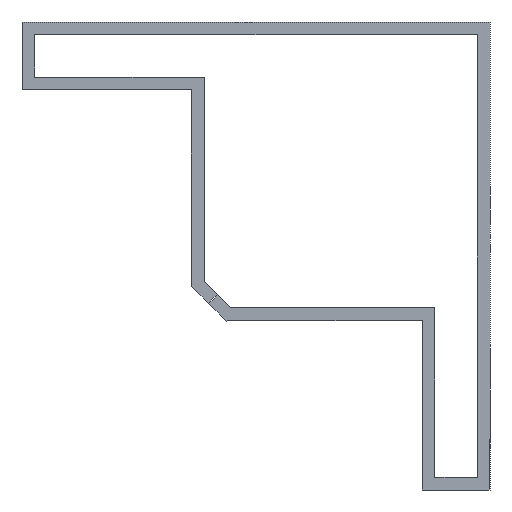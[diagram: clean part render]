
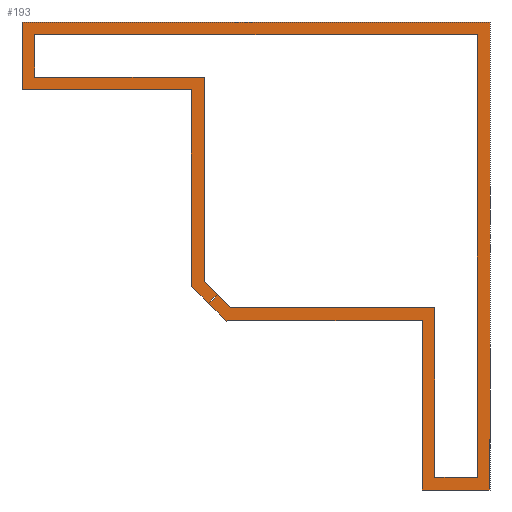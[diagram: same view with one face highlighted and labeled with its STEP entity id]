
A CAD part, front view. The second image highlights one B-rep face of the part: STEP entity #193.
In plain terms, the highlighted planar face has unit normal (0, -1, 0).
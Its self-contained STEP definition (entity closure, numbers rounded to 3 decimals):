
#86 = EDGE_CURVE('',#87,#89,#91,.T.);
#87 = VERTEX_POINT('',#88);
#88 = CARTESIAN_POINT('',(-31.7,0.,-28.081));
#89 = VERTEX_POINT('',#90);
#90 = CARTESIAN_POINT('',(-31.7,0.,-7.2));
#91 = LINE('',#92,#93);
#92 = CARTESIAN_POINT('',(-31.7,0.,-28.081));
#93 = VECTOR('',#94,1.);
#94 = DIRECTION('',(0.,0.,1.));
#141 = VERTEX_POINT('',#142);
#142 = CARTESIAN_POINT('',(-30.35,0.,-27.522));
#159 = VERTEX_POINT('',#160);
#160 = CARTESIAN_POINT('',(-30.35,0.,-5.85));
#166 = EDGE_CURVE('',#159,#141,#167,.T.);
#167 = LINE('',#168,#169);
#168 = CARTESIAN_POINT('',(-30.35,0.,-5.85));
#169 = VECTOR('',#170,1.);
#170 = DIRECTION('',(0.,0.,-1.));
#193 = ADVANCED_FACE('',(#194),#362,.T.);
#194 = FACE_BOUND('',#195,.T.);
#195 = EDGE_LOOP('',(#196,#206,#212,#213,#221,#229,#237,#245,#253,#261,
    #269,#277,#285,#293,#301,#309,#317,#325,#333,#341,#349,#355,#356));
#196 = ORIENTED_EDGE('',*,*,#197,.F.);
#197 = EDGE_CURVE('',#198,#200,#202,.T.);
#198 = VERTEX_POINT('',#199);
#199 = CARTESIAN_POINT('',(-28.953,0.,-28.918));
#200 = VERTEX_POINT('',#201);
#201 = CARTESIAN_POINT('',(-29.908,0.,-29.873));
#202 = LINE('',#203,#204);
#203 = CARTESIAN_POINT('',(-29.908,0.,-29.873));
#204 = VECTOR('',#205,1.);
#205 = DIRECTION('',(-0.707,-0.,-0.707));
#206 = ORIENTED_EDGE('',*,*,#207,.T.);
#207 = EDGE_CURVE('',#198,#141,#208,.T.);
#208 = LINE('',#209,#210);
#209 = CARTESIAN_POINT('',(-28.953,0.,-28.918));
#210 = VECTOR('',#211,1.);
#211 = DIRECTION('',(-0.707,0.,0.707));
#212 = ORIENTED_EDGE('',*,*,#166,.F.);
#213 = ORIENTED_EDGE('',*,*,#214,.T.);
#214 = EDGE_CURVE('',#159,#215,#217,.T.);
#215 = VERTEX_POINT('',#216);
#216 = CARTESIAN_POINT('',(-48.35,0.,-5.85));
#217 = LINE('',#218,#219);
#218 = CARTESIAN_POINT('',(-30.35,0.,-5.85));
#219 = VECTOR('',#220,1.);
#220 = DIRECTION('',(-1.,0.,0.));
#221 = ORIENTED_EDGE('',*,*,#222,.T.);
#222 = EDGE_CURVE('',#215,#223,#225,.T.);
#223 = VERTEX_POINT('',#224);
#224 = CARTESIAN_POINT('',(-48.35,0.,-1.35));
#225 = LINE('',#226,#227);
#226 = CARTESIAN_POINT('',(-48.35,0.,-5.85));
#227 = VECTOR('',#228,1.);
#228 = DIRECTION('',(0.,0.,1.));
#229 = ORIENTED_EDGE('',*,*,#230,.T.);
#230 = EDGE_CURVE('',#223,#231,#233,.T.);
#231 = VERTEX_POINT('',#232);
#232 = CARTESIAN_POINT('',(-1.35,0.,-1.35));
#233 = LINE('',#234,#235);
#234 = CARTESIAN_POINT('',(-48.35,0.,-1.35));
#235 = VECTOR('',#236,1.);
#236 = DIRECTION('',(1.,0.,0.));
#237 = ORIENTED_EDGE('',*,*,#238,.T.);
#238 = EDGE_CURVE('',#231,#239,#241,.T.);
#239 = VERTEX_POINT('',#240);
#240 = CARTESIAN_POINT('',(-1.35,0.,-48.35));
#241 = LINE('',#242,#243);
#242 = CARTESIAN_POINT('',(-1.35,0.,-1.35));
#243 = VECTOR('',#244,1.);
#244 = DIRECTION('',(0.,0.,-1.));
#245 = ORIENTED_EDGE('',*,*,#246,.T.);
#246 = EDGE_CURVE('',#239,#247,#249,.T.);
#247 = VERTEX_POINT('',#248);
#248 = CARTESIAN_POINT('',(-5.85,0.,-48.35));
#249 = LINE('',#250,#251);
#250 = CARTESIAN_POINT('',(-1.35,0.,-48.35));
#251 = VECTOR('',#252,1.);
#252 = DIRECTION('',(-1.,0.,0.));
#253 = ORIENTED_EDGE('',*,*,#254,.T.);
#254 = EDGE_CURVE('',#247,#255,#257,.T.);
#255 = VERTEX_POINT('',#256);
#256 = CARTESIAN_POINT('',(-5.85,0.,-30.35));
#257 = LINE('',#258,#259);
#258 = CARTESIAN_POINT('',(-5.85,0.,-48.35));
#259 = VECTOR('',#260,1.);
#260 = DIRECTION('',(0.,0.,1.));
#261 = ORIENTED_EDGE('',*,*,#262,.T.);
#262 = EDGE_CURVE('',#255,#263,#265,.T.);
#263 = VERTEX_POINT('',#264);
#264 = CARTESIAN_POINT('',(-27.522,0.,-30.35));
#265 = LINE('',#266,#267);
#266 = CARTESIAN_POINT('',(-5.85,0.,-30.35));
#267 = VECTOR('',#268,1.);
#268 = DIRECTION('',(-1.,0.,0.));
#269 = ORIENTED_EDGE('',*,*,#270,.T.);
#270 = EDGE_CURVE('',#263,#271,#273,.T.);
#271 = VERTEX_POINT('',#272);
#272 = CARTESIAN_POINT('',(-28.918,0.,-28.953));
#273 = LINE('',#274,#275);
#274 = CARTESIAN_POINT('',(-27.522,0.,-30.35));
#275 = VECTOR('',#276,1.);
#276 = DIRECTION('',(-0.707,0.,0.707));
#277 = ORIENTED_EDGE('',*,*,#278,.F.);
#278 = EDGE_CURVE('',#279,#271,#281,.T.);
#279 = VERTEX_POINT('',#280);
#280 = CARTESIAN_POINT('',(-29.873,0.,-29.908));
#281 = LINE('',#282,#283);
#282 = CARTESIAN_POINT('',(-29.873,0.,-29.908));
#283 = VECTOR('',#284,1.);
#284 = DIRECTION('',(0.707,0.,0.707));
#285 = ORIENTED_EDGE('',*,*,#286,.T.);
#286 = EDGE_CURVE('',#279,#287,#289,.T.);
#287 = VERTEX_POINT('',#288);
#288 = CARTESIAN_POINT('',(-27.996,0.,
    -31.784));
#289 = LINE('',#290,#291);
#290 = CARTESIAN_POINT('',(-29.873,0.,-29.908));
#291 = VECTOR('',#292,1.);
#292 = DIRECTION('',(0.707,0.,-0.707)
  );
#293 = ORIENTED_EDGE('',*,*,#294,.F.);
#294 = EDGE_CURVE('',#295,#287,#297,.T.);
#295 = VERTEX_POINT('',#296);
#296 = CARTESIAN_POINT('',(-27.85,0.,-31.7));
#297 = LINE('',#298,#299);
#298 = CARTESIAN_POINT('',(-21.303,0.,-27.92));
#299 = VECTOR('',#300,1.);
#300 = DIRECTION('',(-0.866,-0.,-0.5));
#301 = ORIENTED_EDGE('',*,*,#302,.T.);
#302 = EDGE_CURVE('',#295,#303,#305,.T.);
#303 = VERTEX_POINT('',#304);
#304 = CARTESIAN_POINT('',(-7.2,0.,-31.7));
#305 = LINE('',#306,#307);
#306 = CARTESIAN_POINT('',(-27.85,0.,-31.7));
#307 = VECTOR('',#308,1.);
#308 = DIRECTION('',(1.,0.,0.));
#309 = ORIENTED_EDGE('',*,*,#310,.T.);
#310 = EDGE_CURVE('',#303,#311,#313,.T.);
#311 = VERTEX_POINT('',#312);
#312 = CARTESIAN_POINT('',(-7.2,0.,-49.7));
#313 = LINE('',#314,#315);
#314 = CARTESIAN_POINT('',(-7.2,0.,-31.7));
#315 = VECTOR('',#316,1.);
#316 = DIRECTION('',(0.,0.,-1.));
#317 = ORIENTED_EDGE('',*,*,#318,.T.);
#318 = EDGE_CURVE('',#311,#319,#321,.T.);
#319 = VERTEX_POINT('',#320);
#320 = CARTESIAN_POINT('',(0.,0.,-49.7));
#321 = LINE('',#322,#323);
#322 = CARTESIAN_POINT('',(-7.2,0.,-49.7));
#323 = VECTOR('',#324,1.);
#324 = DIRECTION('',(1.,0.,0.));
#325 = ORIENTED_EDGE('',*,*,#326,.T.);
#326 = EDGE_CURVE('',#319,#327,#329,.T.);
#327 = VERTEX_POINT('',#328);
#328 = CARTESIAN_POINT('',(0.,0.,0.));
#329 = LINE('',#330,#331);
#330 = CARTESIAN_POINT('',(0.,0.,-49.7));
#331 = VECTOR('',#332,1.);
#332 = DIRECTION('',(0.,0.,1.));
#333 = ORIENTED_EDGE('',*,*,#334,.T.);
#334 = EDGE_CURVE('',#327,#335,#337,.T.);
#335 = VERTEX_POINT('',#336);
#336 = CARTESIAN_POINT('',(-49.7,0.,0.));
#337 = LINE('',#338,#339);
#338 = CARTESIAN_POINT('',(0.,0.,0.));
#339 = VECTOR('',#340,1.);
#340 = DIRECTION('',(-1.,0.,0.));
#341 = ORIENTED_EDGE('',*,*,#342,.T.);
#342 = EDGE_CURVE('',#335,#343,#345,.T.);
#343 = VERTEX_POINT('',#344);
#344 = CARTESIAN_POINT('',(-49.7,0.,-7.2));
#345 = LINE('',#346,#347);
#346 = CARTESIAN_POINT('',(-49.7,0.,0.));
#347 = VECTOR('',#348,1.);
#348 = DIRECTION('',(0.,0.,-1.));
#349 = ORIENTED_EDGE('',*,*,#350,.T.);
#350 = EDGE_CURVE('',#343,#89,#351,.T.);
#351 = LINE('',#352,#353);
#352 = CARTESIAN_POINT('',(-49.7,0.,-7.2));
#353 = VECTOR('',#354,1.);
#354 = DIRECTION('',(1.,0.,0.));
#355 = ORIENTED_EDGE('',*,*,#86,.F.);
#356 = ORIENTED_EDGE('',*,*,#357,.T.);
#357 = EDGE_CURVE('',#87,#200,#358,.T.);
#358 = LINE('',#359,#360);
#359 = CARTESIAN_POINT('',(-31.7,0.,-28.081));
#360 = VECTOR('',#361,1.);
#361 = DIRECTION('',(0.707,0.,-0.707)
  );
#362 = PLANE('',#363);
#363 = AXIS2_PLACEMENT_3D('',#364,#365,#366);
#364 = CARTESIAN_POINT('',(0.,0.,-49.7));
#365 = DIRECTION('',(0.,-1.,0.));
#366 = DIRECTION('',(0.,-0.,-1.));
